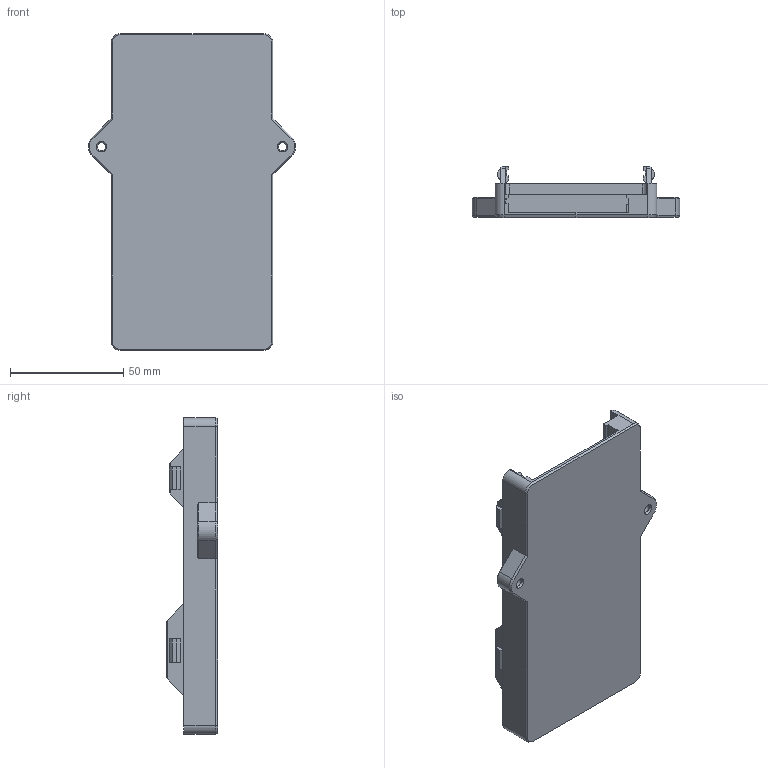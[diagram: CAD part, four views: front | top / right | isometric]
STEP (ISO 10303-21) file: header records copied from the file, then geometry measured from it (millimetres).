
FILE_DESCRIPTION(('CATIA V5 STEP Exchange'),'2;1');
FILE_NAME('D:\_이전 노트북\Cremaker모델링\Cremaker_profile-Metal(5차)-(Final)\Arduino-case.stp','2020-10-23T05:23:28+00:00',('none'),('none'),'CATIA Version 5 Release 20 GA (IN-10)','CATIA V5 STEP AP203','none');
FILE_SCHEMA(('CONFIG_CONTROL_DESIGN'));
Length unit declared in the file: millimetre
Products named in the file (1): Arduino-case
Bounding box: 91.56 x 22.7 x 140 mm (x, y, z)
Volume: 63361 mm3; surface area: 32306.2 mm2
Topology: 1 solids, 1 shells, 135 faces, 364 edges, 233 vertices
Faces by surface type: plane 107, cone 16, cylinder 12
Entity records: 3971 total; most frequent: ORIENTED_EDGE 728, CARTESIAN_POINT 702, DIRECTION 557, EDGE_CURVE 364, VECTOR 319, LINE 319, VERTEX_POINT 233, EDGE_LOOP 141
